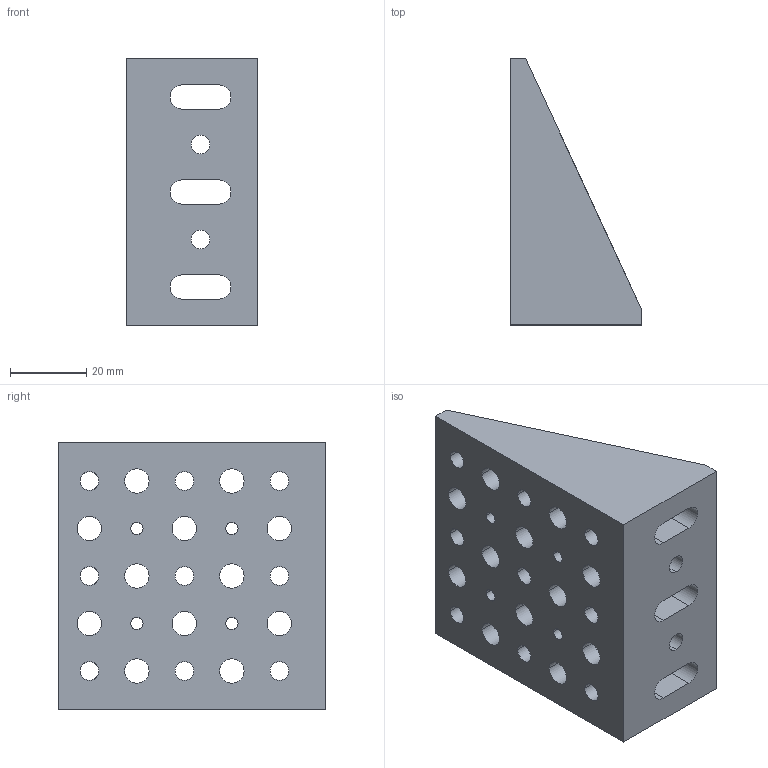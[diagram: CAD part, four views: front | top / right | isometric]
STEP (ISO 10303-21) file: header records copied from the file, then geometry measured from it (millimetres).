
FILE_DESCRIPTION (( 'STEP AP203' ), '1' );
FILE_NAME ('2AB163.STEP', '2008-10-26T03:19:44', ( 'Darius' ), ( '' ), 'SwSTEP 2.0', 'SolidWorks 2003240', '' );
FILE_SCHEMA (( 'CONFIG_CONTROL_DESIGN' ));
Length unit declared in the file: millimetre
Products named in the file (1): 2AB163
Bounding box: 34.5 x 70 x 70 mm (x, y, z)
Volume: 49883.7 mm3; surface area: 21312.4 mm2
Topology: 1 solids, 1 shells, 80 faces, 246 edges, 164 vertices
Faces by surface type: cylinder 63, plane 17
Entity records: 3013 total; most frequent: CARTESIAN_POINT 533, DIRECTION 518, ORIENTED_EDGE 492, EDGE_CURVE 246, AXIS2_PLACEMENT_3D 204, VERTEX_POINT 164, EDGE_LOOP 136, CIRCLE 123
